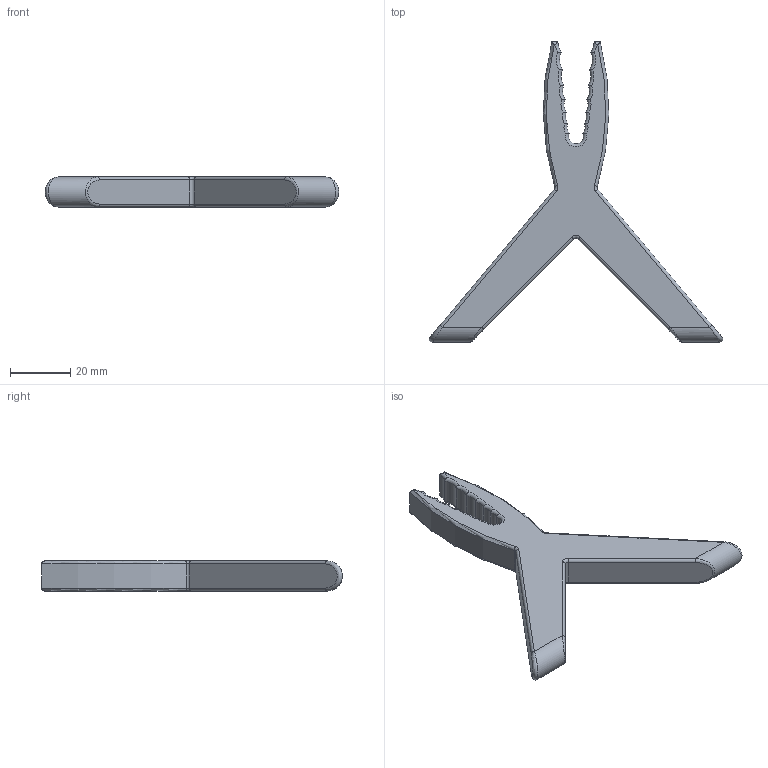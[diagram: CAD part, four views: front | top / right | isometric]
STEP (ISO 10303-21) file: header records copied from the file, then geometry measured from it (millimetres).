
FILE_DESCRIPTION(/* description */ (''),/* implementation_level */ '2;1');
FILE_NAME(/* name */ 'probe_holder v9.step',/* time_stamp */ '2024-01-20T17:59:53-07:00',/* author */ (''),/* organization */ (''),/* preprocessor_version */ 'ST-DEVELOPER v20',/* originating_system */ 'Autodesk Translation Framework v12.14.0.127',/* authorisation */ '');
FILE_SCHEMA (('AUTOMOTIVE_DESIGN { 1 0 10303 214 3 1 1 }'));
Length unit declared in the file: millimetre
Products named in the file (1): probe_holder
Bounding box: 97.69 x 100 x 10 mm (x, y, z)
Volume: 23155.4 mm3; surface area: 8563.6 mm2
Topology: 1 solids, 1 shells, 86 faces, 196 edges, 112 vertices
Faces by surface type: torus 40, cylinder 34, plane 8, bspline 4
Entity records: 3038 total; most frequent: CARTESIAN_POINT 1084, DIRECTION 434, ORIENTED_EDGE 392, EDGE_CURVE 196, AXIS2_PLACEMENT_3D 191, VERTEX_POINT 112, CIRCLE 100, FACE_OUTER_BOUND 86
